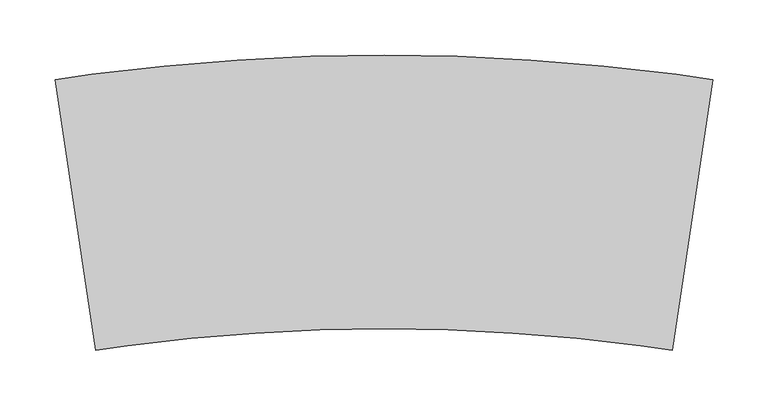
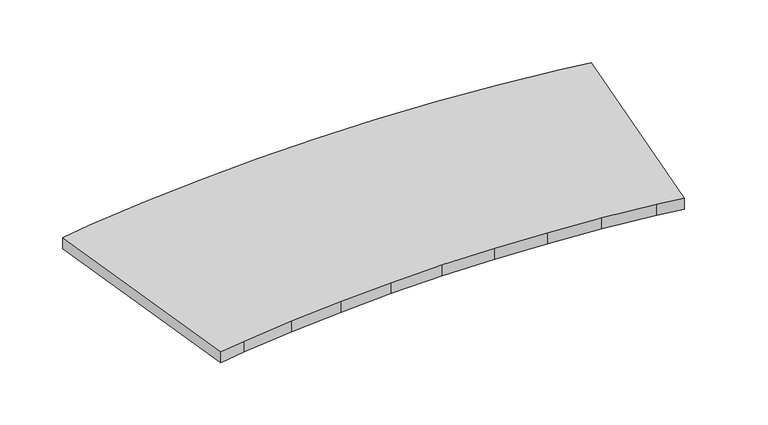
"""IFC4 building model written with IfcOpenShell, lengths in millimetres: proxy geometry, TECHNO_Решетка_R : РАП_Алюминиевая продольная/Белый RAL 9016."""

from ifc_helpers import new_model, si_unit, frame, origin, place, context, project, spatial, polyline, outline, extrude, source, transform, mapped, element, save


def mechanical_equipment_e20392b6(model_context):
    return source(origin(), model_context, "Body", "SweptSolid", [
        extrude(outline(polyline([(297.5381639, 101.7865589), (261.100114, -143.1175622), (232.297678, -138.8321929), (174.4425696, -132.1564694), (116.3995479, -127.3829522), (58.2311379, -124.5167835), (0.0, -123.5610507), (-58.2311379, -124.5167835), (-116.3995479, -127.3829522), (-174.4425696, -132.1564694), (-232.297678, -138.8321929), (-261.100114, -143.1175622), (-297.5381639, 101.7865589), (-264.7161793, 106.6699765), (-198.7870518, 114.2773364), (-132.6437864, 119.7170258), (-66.3576342, 122.9831852), (0.0, 124.072296), (66.3576342, 122.9831852), (132.6437864, 119.7170258), (198.7870518, 114.2773364), (264.7161793, 106.6699765), (297.5381639, 101.7865589)])), frame((0.0, 0.0, -13.0), z_axis=(0.0, 0.0, 1.0), x_axis=(1.0, 0.0, 0.0)), (0.0, 0.0, 1.0), 13.0),
    ])


if __name__ == "__main__":
    model = new_model("IFC4")
    model_context = context("Model", 3, world=origin())
    ifc_project = project(units=[si_unit("LENGTHUNIT", "METRE", prefix="MILLI")], contexts=[model_context])
    site = spatial("IfcSite", under=ifc_project)
    building = spatial("IfcBuilding", under=site)
    placement = place(None, origin())
    mechanical_equipment_shape = mechanical_equipment_e20392b6(model_context)
    element("IfcBuildingElementProxy", 1, Name="TECHNO_Решетка_R : РАП_Алюминиевая продольная/Белый RAL 9016", ObjectType="TECHNO_Решетка_R : РАП_Алюминиевая продольная/Белый RAL 9016", at=placement, inside=building, context=model_context, shape_type="MappedRepresentation", body=[
        mapped(mechanical_equipment_shape, transform((0.0, 0.0, 0.0), x_axis=(1.0, 0.0, 0.0), y_axis=(0.0, 1.0, 0.0), z_axis=(0.0, 0.0, 1.0))),
    ])
    save(model, "model.ifc")
